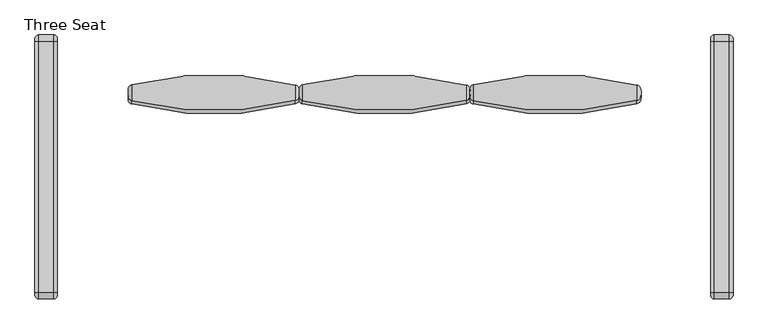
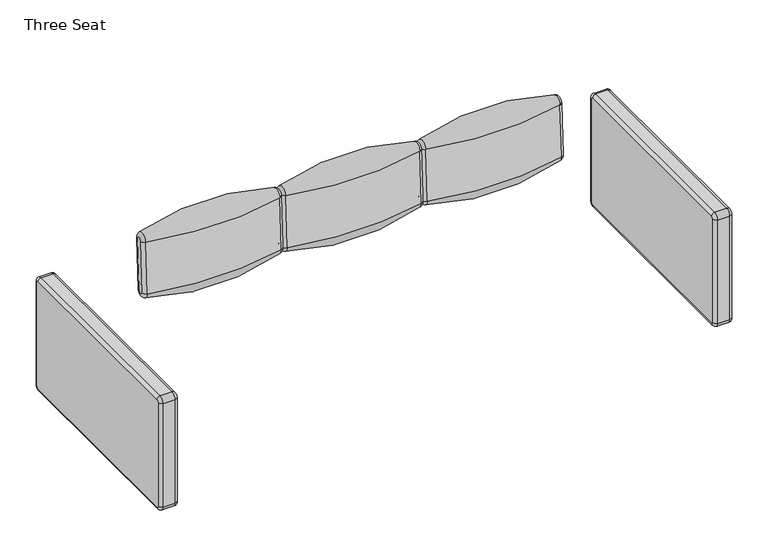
"""IFC4 building model written with IfcOpenShell, lengths in millimetres: furniture geometry, Steelcase Coalesse - Evaneau - Seating - Sofa : Three Seat."""

from ifc_helpers import new_model, si_unit, point, frame, origin, place, context, project, spatial, circle_curve, ellipse_curve, trimmed, source, transform, mapped, element, save
from ifc_brep_helpers import plane_surface, cylinder_surface, revolved_surface, advanced_brep


def three_seat_28475667(model_context):
    return source(origin(), model_context, "Body", "AdvancedBrep", [
        advanced_brep(
        [(-1501.6406826, 868.4730492, 481.0874852), (-1501.6406826, 888.8224164, 480.0210201), (-1489.7351855, 904.2188195, 479.2141288), (-1489.7351855, 853.0766461, 481.8943765), (-1501.6406826, 879.5738856, 692.9040621), (-1501.6406826, 899.9232528, 691.8375969), (-939.8204546, 871.7987042, 480.913195), (-939.8204546, 885.4967614, 480.1953103), (-939.8204546, 896.5975978, 692.0118871), (-939.8204546, 882.8995406, 692.7297719), (-954.0305616, 853.3990279, 481.8774812), (-954.0305616, 903.8964377, 479.2310241), (-1489.7351855, 864.1774825, 693.7109534), (-1489.7351855, 915.3196559, 691.0307057), (-954.0305616, 864.4998643, 693.6940581), (-954.0305616, 914.9972741, 691.047601)],
        [
            (0, 1, circle_curve(frame((-1501.6406826, 878.6477328, 480.5542526), z_axis=(1.0, 0.0, 0.0), x_axis=(0.0, 0.9986295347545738, -0.05233595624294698)), 10.1886468)),
            (1, 2, circle_curve(frame((-1485.705138, 888.8224164, 480.0210201), z_axis=(0.0, -0.05233595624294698, -0.9986295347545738), x_axis=(1.0, 0.0, 0.0)), 15.9355447)),
            (2, 3, circle_curve(frame((-1489.7351855, 878.6477328, 480.5542526), z_axis=(-1.0, 0.0, 0.0), x_axis=(0.0, 0.9986295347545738, -0.05233595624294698)), 25.606179)),
            (3, 0, circle_curve(frame((-1485.705138, 868.4730492, 481.0874852), z_axis=(0.0, -0.05233595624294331, -0.998629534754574), x_axis=(1.0, 0.0, 0.0)), 15.9355447)),
            (0, 4),
            (4, 5, circle_curve(frame((-1501.6406826, 889.7485692, 692.3708295), z_axis=(-1.0, 0.0, 0.0), x_axis=(0.0, 0.9986295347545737, -0.052335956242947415)), 10.1886468)),
            (5, 1),
            (6, 7, circle_curve(frame((-939.8204546, 878.6477328, 480.5542526), z_axis=(1.0, 0.0, 0.0), x_axis=(0.0, 0.9986295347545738, -0.05233595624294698)), 6.8584279)),
            (7, 8),
            (8, 9, circle_curve(frame((-939.8204546, 889.7485692, 692.3708295), z_axis=(1.0, 0.0, 0.0), x_axis=(0.0, 0.9986295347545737, -0.052335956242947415)), 6.8584279)),
            (9, 6),
            (6, 10, circle_curve(frame((-958.8704546, 871.7987042, 480.913195), z_axis=(0.0, -0.05233595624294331, -0.998629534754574), x_axis=(1.0, 0.0, 0.0)), 19.05)),
            (10, 11, circle_curve(frame((-954.0305616, 878.6477328, 480.5542526), z_axis=(1.0, 0.0, 0.0), x_axis=(0.0, 0.9986295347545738, -0.05233595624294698)), 25.2833549)),
            (11, 7, circle_curve(frame((-958.8704546, 885.4967614, 480.1953103), z_axis=(0.0, -0.05233595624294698, -0.9986295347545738), x_axis=(1.0, 0.0, 0.0)), 19.05)),
            (2, 11, circle_curve(frame((-1222.4988615, -116.7314527, 532.7198653), z_axis=(0.0, -0.05233595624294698, -0.9986295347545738), x_axis=(1.0, 0.0, 0.0)), 1056.7012705)),
            (10, 3, circle_curve(frame((-1222.4988615, 1874.0269183, 428.38864), z_axis=(0.0, -0.05233595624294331, -0.998629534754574), x_axis=(1.0, 0.0, 0.0)), 1056.7012705)),
            (4, 12, circle_curve(frame((-1485.705138, 879.5738856, 692.9040621), z_axis=(0.0, 0.05233595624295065, 0.9986295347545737), x_axis=(0.28024218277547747, 0.9586137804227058, -0.050238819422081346)), 15.9355447)),
            (12, 13, circle_curve(frame((-1489.7351855, 889.7485692, 692.3708295), z_axis=(-1.0, 0.0, 0.0), x_axis=(0.0, 0.9986295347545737, -0.052335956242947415)), 25.606179)),
            (13, 5, circle_curve(frame((-1485.705138, 899.9232528, 691.8375969), z_axis=(0.0, 0.05233595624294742, 0.9986295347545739), x_axis=(0.280242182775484, -0.958613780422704, 0.050238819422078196)), 15.9355447)),
            (12, 14, circle_curve(frame((-1222.4988615, 1885.1277547, 640.2052169), z_axis=(0.0, 0.05233595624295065, 0.9986295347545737), x_axis=(0.28024218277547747, 0.9586137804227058, -0.050238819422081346)), 1056.7012705)),
            (14, 15, circle_curve(frame((-954.0305616, 889.7485692, 692.3708295), z_axis=(-1.0, 0.0, 0.0), x_axis=(0.0, 0.9986295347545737, -0.052335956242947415)), 25.2833549)),
            (15, 13, circle_curve(frame((-1222.4988615, -105.6306163, 744.5364422), z_axis=(0.0, 0.05233595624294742, 0.9986295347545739), x_axis=(0.280242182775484, -0.958613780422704, 0.050238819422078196)), 1056.7012705)),
            (14, 9, circle_curve(frame((-958.8704546, 882.8995406, 692.7297719), z_axis=(0.0, 0.05233595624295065, 0.9986295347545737), x_axis=(0.28024218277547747, 0.9586137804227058, -0.050238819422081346)), 19.05)),
            (8, 15, circle_curve(frame((-958.8704546, 896.5975978, 692.0118871), z_axis=(0.0, 0.05233595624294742, 0.9986295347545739), x_axis=(0.280242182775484, -0.958613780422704, 0.050238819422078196)), 19.05)),
            (11, 15),
            (14, 10),
            (12, 3),
            (13, 2),
        ],
        [
            revolved_surface(trimmed(ellipse_curve(frame((-1485.705138, 888.8224164, 480.0210201), z_axis=(0.0, 0.05233595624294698, 0.9986295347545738), x_axis=(1.0, 0.0, 0.0)), 15.9355447, 15.9355447), [point((-1489.7351855, 904.2188195, 479.2141288))], [point((-1501.6406826, 888.8224164, 480.0210201))], True, "CARTESIAN"), (-939.8204546, 878.6477328, 480.5542526), (-1.0, 0.0, 0.0)),
            plane_surface(frame((-1501.6406826, 878.6477328, 480.5542526), z_axis=(-1.0000000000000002, 0.0, 0.0), x_axis=(0.0, 0.9986295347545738, -0.05233595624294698))),
            plane_surface(frame((-939.8204546, 878.6477328, 480.5542526), z_axis=(1.0000000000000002, 0.0, 0.0), x_axis=(0.0, 0.9986295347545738, -0.05233595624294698))),
            revolved_surface(trimmed(ellipse_curve(frame((-958.8704546, 885.4967614, 480.1953103), z_axis=(0.0, 0.05233595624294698, 0.9986295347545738), x_axis=(1.0, 0.0, 0.0)), 19.05, 19.05), [point((-939.8204546, 885.4967614, 480.1953103))], [point((-954.0305616, 903.8964377, 479.2310241))], True, "CARTESIAN"), (-939.8204546, 878.6477328, 480.5542526), (-1.0, 0.0, 0.0)),
            revolved_surface(trimmed(ellipse_curve(frame((-1222.4988615, -116.7314527, 532.7198653), z_axis=(0.0, 0.05233595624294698, 0.9986295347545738), x_axis=(1.0, 0.0, 0.0)), 1056.7012705, 1056.7012705), [point((-954.0305616, 903.8964377, 479.2310241))], [point((-1489.7351855, 904.2188195, 479.2141288))], True, "CARTESIAN"), (-939.8204546, 878.6477328, 480.5542526), (-1.0, 0.0, 0.0)),
            revolved_surface(trimmed(ellipse_curve(frame((-1485.705138, 899.9232528, 691.8375969), z_axis=(0.0, -0.05233595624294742, -0.9986295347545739), x_axis=(0.280242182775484, -0.958613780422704, 0.050238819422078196)), 15.9355447, 15.9355447), [point((-1501.6406826, 899.9232528, 691.8375969))], [point((-1489.7351855, 915.3196559, 691.0307057))], True, "CARTESIAN"), (-1501.6406826, 889.7485692, 692.3708295), (1.0, 0.0, 0.0)),
            revolved_surface(trimmed(ellipse_curve(frame((-1222.4988615, -105.6306163, 744.5364422), z_axis=(0.0, -0.05233595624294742, -0.9986295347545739), x_axis=(0.280242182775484, -0.958613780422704, 0.050238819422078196)), 1056.7012705, 1056.7012705), [point((-1489.7351855, 915.3196559, 691.0307057))], [point((-954.0305616, 914.9972741, 691.047601))], True, "CARTESIAN"), (-1501.6406826, 889.7485692, 692.3708295), (1.0, 0.0, 0.0)),
            revolved_surface(trimmed(ellipse_curve(frame((-958.8704546, 896.5975978, 692.0118871), z_axis=(0.0, -0.05233595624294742, -0.9986295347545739), x_axis=(0.280242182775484, -0.958613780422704, 0.050238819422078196)), 19.05, 19.05), [point((-954.0305616, 914.9972741, 691.047601))], [point((-939.8204546, 896.5975978, 692.0118871))], True, "CARTESIAN"), (-1501.6406826, 889.7485692, 692.3708295), (1.0, 0.0, 0.0)),
            cylinder_surface(frame((-958.8704546, 896.5975978, 692.0118871), z_axis=(0.0, -0.05233595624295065, -0.9986295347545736), x_axis=(1.0, 0.0, 0.0)), 19.05),
            cylinder_surface(frame((-958.8704546, 882.8995406, 692.7297719), z_axis=(0.0, -0.05233595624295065, -0.9986295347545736), x_axis=(1.0, 0.0, 0.0)), 19.05),
            cylinder_surface(frame((-1222.4988615, 1885.1277547, 640.2052169), z_axis=(0.0, -0.05233595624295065, -0.9986295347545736), x_axis=(1.0, 0.0, 0.0)), 1056.7012705),
            cylinder_surface(frame((-1485.705138, 879.5738856, 692.9040621), z_axis=(0.0, -0.05233595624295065, -0.9986295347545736), x_axis=(1.0, 0.0, 0.0)), 15.9355447),
            cylinder_surface(frame((-1485.705138, 899.9232528, 691.8375969), z_axis=(0.0, -0.05233595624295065, -0.9986295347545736), x_axis=(1.0, 0.0, 0.0)), 15.9355447),
            cylinder_surface(frame((-1222.4988615, -105.6306163, 744.5364422), z_axis=(0.0, -0.05233595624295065, -0.9986295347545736), x_axis=(1.0, 0.0, 0.0)), 1056.7012705),
        ],
        [
            (0, [[1, 2, 3, 4]]),
            (1, [[-1, 5, 6, 7]]),
            (2, [[8, 9, 10, 11]]),
            (3, [[-8, 12, 13, 14]]),
            (4, [[-3, 15, -13, 16]]),
            (5, [[-6, 17, 18, 19]]),
            (6, [[-18, 20, 21, 22]]),
            (7, [[-21, 23, -10, 24]]),
            (8, [[25, -24, -9, -14]]),
            (9, [[-11, -23, 26, -12]]),
            (10, [[-26, -20, 27, -16]]),
            (11, [[-27, -17, -5, -4]]),
            (12, [[-7, -19, 28, -2]]),
            (13, [[-25, -15, -28, -22]]),
        ],
    ),
        advanced_brep(
        [(-395.2305616, 903.8964377, 479.2310241), (-395.2305616, 914.9972741, 691.047601), (-381.0204546, 896.5975978, 692.0118871), (-381.0204546, 885.4967614, 480.1953103), (-381.0204546, 882.8995406, 692.7297719), (-381.0204546, 871.7987042, 480.913195), (-395.2305616, 864.4998643, 693.6940581), (-395.2305616, 853.3990279, 481.8774812), (-930.9351855, 864.1774825, 693.7109534), (-930.9351855, 853.0766461, 481.8943765), (-942.8406826, 879.5738856, 692.9040621), (-942.8406826, 868.4730492, 481.0874852), (-942.8406826, 899.9232528, 691.8375969), (-942.8406826, 888.8224164, 480.0210201), (-930.9351855, 915.3196559, 691.0307057), (-930.9351855, 904.2188195, 479.2141288)],
        [
            (0, 1),
            (1, 2, circle_curve(frame((-400.0704546, 896.5975978, 692.0118871), z_axis=(0.0, -0.052335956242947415, -0.9986295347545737), x_axis=(1.0, 0.0, 0.0)), 19.05)),
            (2, 3),
            (3, 0, circle_curve(frame((-400.0704546, 885.4967614, 480.1953103), z_axis=(0.0, 0.052335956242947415, 0.9986295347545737), x_axis=(1.0, 0.0, 0.0)), 19.05)),
            (2, 4, circle_curve(frame((-381.0204546, 889.7485692, 692.3708295), z_axis=(1.0, 0.0, 0.0), x_axis=(0.0, 0.9986295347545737, -0.052335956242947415)), 6.8584279)),
            (4, 5),
            (5, 3, circle_curve(frame((-381.0204546, 878.6477328, 480.5542526), z_axis=(1.0, 0.0, 0.0), x_axis=(0.0, 0.9986295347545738, -0.05233595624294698)), 6.8584279)),
            (4, 6, circle_curve(frame((-400.0704546, 882.8995406, 692.7297719), z_axis=(0.0, -0.05233595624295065, -0.9986295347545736), x_axis=(1.0, 0.0, 0.0)), 19.05)),
            (6, 7),
            (7, 5, circle_curve(frame((-400.0704546, 871.7987042, 480.913195), z_axis=(0.0, 0.05233595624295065, 0.9986295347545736), x_axis=(1.0, 0.0, 0.0)), 19.05)),
            (6, 8, circle_curve(frame((-663.6988615, 1885.1277547, 640.2052169), z_axis=(0.0, -0.05233595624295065, -0.9986295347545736), x_axis=(1.0, 0.0, 0.0)), 1056.7012705)),
            (8, 9),
            (9, 7, circle_curve(frame((-663.6988615, 1874.0269183, 428.38864), z_axis=(0.0, 0.05233595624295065, 0.9986295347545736), x_axis=(1.0, 0.0, 0.0)), 1056.7012705)),
            (8, 10, circle_curve(frame((-926.905138, 879.5738856, 692.9040621), z_axis=(0.0, -0.05233595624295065, -0.9986295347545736), x_axis=(1.0, 0.0, 0.0)), 15.9355447)),
            (10, 11),
            (11, 9, circle_curve(frame((-926.905138, 868.4730492, 481.0874852), z_axis=(0.0, 0.05233595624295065, 0.9986295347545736), x_axis=(1.0, 0.0, 0.0)), 15.9355447)),
            (10, 12, circle_curve(frame((-942.8406826, 889.7485692, 692.3708295), z_axis=(-1.0, 0.0, 0.0), x_axis=(0.0, 0.9986295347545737, -0.052335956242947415)), 10.1886468)),
            (12, 13),
            (13, 11, circle_curve(frame((-942.8406826, 878.6477328, 480.5542526), z_axis=(-1.0, 0.0, 0.0), x_axis=(0.0, 0.9986295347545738, -0.05233595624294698)), 10.1886468)),
            (12, 14, circle_curve(frame((-926.905138, 899.9232528, 691.8375969), z_axis=(0.0, -0.052335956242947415, -0.9986295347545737), x_axis=(1.0, 0.0, 0.0)), 15.9355447)),
            (14, 15),
            (15, 13, circle_curve(frame((-926.905138, 888.8224164, 480.0210201), z_axis=(0.0, 0.052335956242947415, 0.9986295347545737), x_axis=(1.0, 0.0, 0.0)), 15.9355447)),
            (0, 15, circle_curve(frame((-663.6988615, -116.7314527, 532.7198653), z_axis=(0.0, 0.052335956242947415, 0.9986295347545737), x_axis=(1.0, 0.0, 0.0)), 1056.7012705)),
            (14, 1, circle_curve(frame((-663.6988615, -105.6306163, 744.5364422), z_axis=(0.0, -0.052335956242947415, -0.9986295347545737), x_axis=(1.0, 0.0, 0.0)), 1056.7012705)),
            (8, 14, circle_curve(frame((-930.9351855, 889.7485692, 692.3708295), z_axis=(-1.0, 0.0, 0.0), x_axis=(0.0, 0.9986295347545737, -0.052335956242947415)), 25.606179)),
            (6, 1, circle_curve(frame((-395.2305616, 889.7485692, 692.3708295), z_axis=(-1.0, 0.0, 0.0), x_axis=(0.0, 0.9986295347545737, -0.052335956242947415)), 25.2833549)),
            (15, 9, circle_curve(frame((-930.9351855, 878.6477328, 480.5542526), z_axis=(-1.0, 0.0, 0.0), x_axis=(0.0, 0.9986295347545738, -0.05233595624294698)), 25.606179)),
            (7, 0, circle_curve(frame((-395.2305616, 878.6477328, 480.5542526), z_axis=(1.0, 0.0, 0.0), x_axis=(0.0, 0.9986295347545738, -0.05233595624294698)), 25.2833549)),
        ],
        [
            cylinder_surface(frame((-400.0704546, 896.5975978, 692.0118871), z_axis=(0.0, -0.052335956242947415, -0.9986295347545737), x_axis=(1.0, 0.0, 0.0)), 19.05),
            plane_surface(frame((-381.0204546, 885.4967614, 480.1953103), z_axis=(1.0000000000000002, 0.0, 0.0), x_axis=(0.0, 0.052335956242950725, 0.9986295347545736))),
            cylinder_surface(frame((-400.0704546, 882.8995406, 692.7297719), z_axis=(0.0, -0.05233595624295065, -0.9986295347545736), x_axis=(1.0, 0.0, 0.0)), 19.05),
            cylinder_surface(frame((-663.6988615, 1885.1277547, 640.2052169), z_axis=(0.0, -0.05233595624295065, -0.9986295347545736), x_axis=(1.0, 0.0, 0.0)), 1056.7012705),
            cylinder_surface(frame((-926.905138, 879.5738856, 692.9040621), z_axis=(0.0, -0.05233595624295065, -0.9986295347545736), x_axis=(1.0, 0.0, 0.0)), 15.9355447),
            plane_surface(frame((-942.8406826, 868.4730492, 481.0874852), z_axis=(-1.0000000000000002, 0.0, 0.0), x_axis=(0.0, 0.052335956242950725, 0.9986295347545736))),
            cylinder_surface(frame((-926.905138, 899.9232528, 691.8375969), z_axis=(0.0, -0.052335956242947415, -0.9986295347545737), x_axis=(1.0, 0.0, 0.0)), 15.9355447),
            cylinder_surface(frame((-663.6988615, -105.6306163, 744.5364422), z_axis=(0.0, -0.052335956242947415, -0.9986295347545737), x_axis=(1.0, 0.0, 0.0)), 1056.7012705),
            revolved_surface(trimmed(ellipse_curve(frame((-926.905138, 899.9232528, 691.8375969), z_axis=(0.0, -0.052335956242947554, -0.9986295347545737), x_axis=(1.0, 0.0, 0.0)), 15.9355447, 15.9355447), [point((-942.8406826, 899.9232528, 691.8375969))], [point((-930.9351855, 915.3196559, 691.0307057))], True, "CARTESIAN"), (-942.8406826, 889.7485692, 692.3708295), (1.0, 0.0, 0.0)),
            revolved_surface(trimmed(ellipse_curve(frame((-663.6988615, -105.6306163, 744.5364422), z_axis=(0.0, -0.052335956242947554, -0.9986295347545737), x_axis=(1.0, 0.0, 0.0)), 1056.7012705, 1056.7012705), [point((-930.9351855, 915.3196559, 691.0307057))], [point((-395.2305616, 914.9972741, 691.047601))], True, "CARTESIAN"), (-942.8406826, 889.7485692, 692.3708295), (1.0, 0.0, 0.0)),
            revolved_surface(trimmed(ellipse_curve(frame((-400.0704546, 896.5975978, 692.0118871), z_axis=(0.0, -0.052335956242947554, -0.9986295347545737), x_axis=(1.0, 0.0, 0.0)), 19.05, 19.05), [point((-395.2305616, 914.9972741, 691.047601))], [point((-381.0204546, 896.5975978, 692.0118871))], True, "CARTESIAN"), (-942.8406826, 889.7485692, 692.3708295), (1.0, 0.0, 0.0)),
            revolved_surface(trimmed(ellipse_curve(frame((-926.905138, 888.8224164, 480.0210201), z_axis=(0.0, 0.05233595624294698, 0.9986295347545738), x_axis=(1.0, 0.0, 0.0)), 15.9355447, 15.9355447), [point((-930.9351855, 904.2188195, 479.2141288))], [point((-942.8406826, 888.8224164, 480.0210201))], True, "CARTESIAN"), (-381.0204546, 878.6477328, 480.5542526), (-1.0, 0.0, 0.0)),
            revolved_surface(trimmed(ellipse_curve(frame((-400.0704546, 885.4967614, 480.1953103), z_axis=(0.0, 0.05233595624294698, 0.9986295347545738), x_axis=(1.0, 0.0, 0.0)), 19.05, 19.05), [point((-381.0204546, 885.4967614, 480.1953103))], [point((-395.2305616, 903.8964377, 479.2310241))], True, "CARTESIAN"), (-381.0204546, 878.6477328, 480.5542526), (-1.0, 0.0, 0.0)),
            revolved_surface(trimmed(ellipse_curve(frame((-663.6988615, -116.7314527, 532.7198653), z_axis=(0.0, 0.05233595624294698, 0.9986295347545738), x_axis=(1.0, 0.0, 0.0)), 1056.7012705, 1056.7012705), [point((-395.2305616, 903.8964377, 479.2310241))], [point((-930.9351855, 904.2188195, 479.2141288))], True, "CARTESIAN"), (-381.0204546, 878.6477328, 480.5542526), (-1.0, 0.0, 0.0)),
        ],
        [
            (0, [[1, 2, 3, 4]]),
            (1, [[-3, 5, 6, 7]]),
            (2, [[-6, 8, 9, 10]]),
            (3, [[-9, 11, 12, 13]]),
            (4, [[-12, 14, 15, 16]]),
            (5, [[-15, 17, 18, 19]]),
            (6, [[-18, 20, 21, 22]]),
            (7, [[-1, 23, -21, 24]]),
            (8, [[-17, -14, 25, -20]]),
            (9, [[-25, -11, 26, -24]]),
            (10, [[-26, -8, -5, -2]]),
            (11, [[-19, -22, 27, -16]]),
            (12, [[-7, -10, 28, -4]]),
            (13, [[-27, -23, -28, -13]]),
        ],
    ),
        advanced_brep(
        [(-384.0406826, 879.5738856, 692.9040621), (-384.0406826, 899.9232528, 691.8375969), (-384.0406826, 888.8224164, 480.0210201), (-384.0406826, 868.4730492, 481.0874852), (-372.1351855, 864.1774825, 693.7109534), (-372.1351855, 915.3196559, 691.0307057), (163.5694384, 864.4998643, 693.6940581), (163.5694384, 914.9972741, 691.047601), (177.7795454, 882.8995406, 692.7297719), (177.7795454, 896.5975978, 692.0118871), (177.7795454, 871.7987042, 480.913195), (177.7795454, 885.4967614, 480.1953103), (163.5694384, 903.8964377, 479.2310241), (163.5694384, 853.3990279, 481.8774812), (-372.1351855, 853.0766461, 481.8943765), (-372.1351855, 904.2188195, 479.2141288)],
        [
            (0, 1, circle_curve(frame((-384.0406826, 889.7485692, 692.3708295), z_axis=(-1.0, 0.0, 0.0), x_axis=(0.0, 0.9986295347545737, -0.052335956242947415)), 10.1886468)),
            (1, 2),
            (2, 3, circle_curve(frame((-384.0406826, 878.6477328, 480.5542526), z_axis=(-1.0, 0.0, 0.0), x_axis=(0.0, 0.9986295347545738, -0.05233595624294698)), 10.1886468)),
            (3, 0),
            (0, 4, circle_curve(frame((-368.105138, 879.5738856, 692.9040621), z_axis=(0.0, 0.05233595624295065, 0.9986295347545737), x_axis=(0.28024218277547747, 0.9586137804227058, -0.050238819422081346)), 15.9355447)),
            (4, 5, circle_curve(frame((-372.1351855, 889.7485692, 692.3708295), z_axis=(-1.0, 0.0, 0.0), x_axis=(0.0, 0.9986295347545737, -0.052335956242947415)), 25.606179)),
            (5, 1, circle_curve(frame((-368.105138, 899.9232528, 691.8375969), z_axis=(0.0, 0.05233595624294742, 0.9986295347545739), x_axis=(0.280242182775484, -0.958613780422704, 0.050238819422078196)), 15.9355447)),
            (4, 6, circle_curve(frame((-104.8988615, 1885.1277547, 640.2052169), z_axis=(0.0, 0.05233595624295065, 0.9986295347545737), x_axis=(0.28024218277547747, 0.9586137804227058, -0.050238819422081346)), 1056.7012705)),
            (6, 7, circle_curve(frame((163.5694384, 889.7485692, 692.3708295), z_axis=(-1.0, 0.0, 0.0), x_axis=(0.0, 0.9986295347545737, -0.052335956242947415)), 25.2833549)),
            (7, 5, circle_curve(frame((-104.8988615, -105.6306163, 744.5364422), z_axis=(0.0, 0.05233595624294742, 0.9986295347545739), x_axis=(0.280242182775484, -0.958613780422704, 0.050238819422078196)), 1056.7012705)),
            (6, 8, circle_curve(frame((158.7295454, 882.8995406, 692.7297719), z_axis=(0.0, 0.05233595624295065, 0.9986295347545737), x_axis=(0.28024218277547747, 0.9586137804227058, -0.050238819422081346)), 19.05)),
            (8, 9, circle_curve(frame((177.7795454, 889.7485692, 692.3708295), z_axis=(-1.0, 0.0, 0.0), x_axis=(0.0, 0.9986295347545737, -0.052335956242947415)), 6.8584279)),
            (9, 7, circle_curve(frame((158.7295454, 896.5975978, 692.0118871), z_axis=(0.0, 0.05233595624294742, 0.9986295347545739), x_axis=(0.280242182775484, -0.958613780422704, 0.050238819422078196)), 19.05)),
            (8, 10),
            (10, 11, circle_curve(frame((177.7795454, 878.6477328, 480.5542526), z_axis=(1.0, 0.0, 0.0), x_axis=(0.0, 0.9986295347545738, -0.05233595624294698)), 6.8584279)),
            (11, 9),
            (12, 7),
            (11, 12, circle_curve(frame((158.7295454, 885.4967614, 480.1953103), z_axis=(0.0, 0.05233595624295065, 0.9986295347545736), x_axis=(1.0, 0.0, 0.0)), 19.05)),
            (6, 13),
            (13, 10, circle_curve(frame((158.7295454, 871.7987042, 480.913195), z_axis=(0.0, 0.05233595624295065, 0.9986295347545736), x_axis=(1.0, 0.0, 0.0)), 19.05)),
            (4, 14),
            (14, 13, circle_curve(frame((-104.8988615, 1874.0269183, 428.38864), z_axis=(0.0, 0.05233595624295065, 0.9986295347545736), x_axis=(1.0, 0.0, 0.0)), 1056.7012705)),
            (3, 14, circle_curve(frame((-368.105138, 868.4730492, 481.0874852), z_axis=(0.0, 0.05233595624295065, 0.9986295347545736), x_axis=(1.0, 0.0, 0.0)), 15.9355447)),
            (5, 15),
            (15, 2, circle_curve(frame((-368.105138, 888.8224164, 480.0210201), z_axis=(0.0, 0.05233595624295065, 0.9986295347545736), x_axis=(1.0, 0.0, 0.0)), 15.9355447)),
            (12, 15, circle_curve(frame((-104.8988615, -116.7314527, 532.7198653), z_axis=(0.0, 0.05233595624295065, 0.9986295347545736), x_axis=(1.0, 0.0, 0.0)), 1056.7012705)),
            (15, 14, circle_curve(frame((-372.1351855, 878.6477328, 480.5542526), z_axis=(-1.0, 0.0, 0.0), x_axis=(0.0, 0.9986295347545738, -0.05233595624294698)), 25.606179)),
            (13, 12, circle_curve(frame((163.5694384, 878.6477328, 480.5542526), z_axis=(1.0, 0.0, 0.0), x_axis=(0.0, 0.9986295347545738, -0.05233595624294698)), 25.2833549)),
        ],
        [
            plane_surface(frame((-384.0406826, 889.7485692, 692.3708295), z_axis=(-1.0, 0.0, 0.0), x_axis=(0.0, 0.9986295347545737, -0.052335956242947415))),
            revolved_surface(trimmed(ellipse_curve(frame((-368.105138, 899.9232528, 691.8375969), z_axis=(0.0, -0.05233595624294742, -0.9986295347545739), x_axis=(0.280242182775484, -0.958613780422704, 0.050238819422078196)), 15.9355447, 15.9355447), [point((-384.0406826, 899.9232528, 691.8375969))], [point((-372.1351855, 915.3196559, 691.0307057))], True, "CARTESIAN"), (-384.0406826, 889.7485692, 692.3708295), (1.0, 0.0, 0.0)),
            revolved_surface(trimmed(ellipse_curve(frame((-104.8988615, -105.6306163, 744.5364422), z_axis=(0.0, -0.05233595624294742, -0.9986295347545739), x_axis=(0.280242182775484, -0.958613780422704, 0.050238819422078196)), 1056.7012705, 1056.7012705), [point((-372.1351855, 915.3196559, 691.0307057))], [point((163.5694384, 914.9972741, 691.047601))], True, "CARTESIAN"), (-384.0406826, 889.7485692, 692.3708295), (1.0, 0.0, 0.0)),
            revolved_surface(trimmed(ellipse_curve(frame((158.7295454, 896.5975978, 692.0118871), z_axis=(0.0, -0.05233595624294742, -0.9986295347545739), x_axis=(0.280242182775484, -0.958613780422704, 0.050238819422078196)), 19.05, 19.05), [point((163.5694384, 914.9972741, 691.047601))], [point((177.7795454, 896.5975978, 692.0118871))], True, "CARTESIAN"), (-384.0406826, 889.7485692, 692.3708295), (1.0, 0.0, 0.0)),
            plane_surface(frame((177.7795454, 889.7485692, 692.3708295), z_axis=(1.0, 0.0, 0.0), x_axis=(0.0, 0.9986295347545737, -0.052335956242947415))),
            cylinder_surface(frame((158.7295454, 896.5975978, 692.0118871), z_axis=(0.0, -0.05233595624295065, -0.9986295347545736), x_axis=(1.0, 0.0, 0.0)), 19.05),
            cylinder_surface(frame((158.7295454, 882.8995406, 692.7297719), z_axis=(0.0, -0.05233595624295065, -0.9986295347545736), x_axis=(1.0, 0.0, 0.0)), 19.05),
            cylinder_surface(frame((-104.8988615, 1885.1277547, 640.2052169), z_axis=(0.0, -0.05233595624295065, -0.9986295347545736), x_axis=(1.0, 0.0, 0.0)), 1056.7012705),
            cylinder_surface(frame((-368.105138, 879.5738856, 692.9040621), z_axis=(0.0, -0.05233595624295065, -0.9986295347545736), x_axis=(1.0, 0.0, 0.0)), 15.9355447),
            cylinder_surface(frame((-368.105138, 899.9232528, 691.8375969), z_axis=(0.0, -0.05233595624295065, -0.9986295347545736), x_axis=(1.0, 0.0, 0.0)), 15.9355447),
            cylinder_surface(frame((-104.8988615, -105.6306163, 744.5364422), z_axis=(0.0, -0.05233595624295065, -0.9986295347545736), x_axis=(1.0, 0.0, 0.0)), 1056.7012705),
            revolved_surface(trimmed(ellipse_curve(frame((-368.105138, 888.8224164, 480.0210201), z_axis=(0.0, 0.05233595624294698, 0.9986295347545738), x_axis=(1.0, 0.0, 0.0)), 15.9355447, 15.9355447), [point((-372.1351855, 904.2188195, 479.2141288))], [point((-384.0406826, 888.8224164, 480.0210201))], True, "CARTESIAN"), (177.7795454, 878.6477328, 480.5542526), (-1.0, 0.0, 0.0)),
            revolved_surface(trimmed(ellipse_curve(frame((158.7295454, 885.4967614, 480.1953103), z_axis=(0.0, 0.05233595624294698, 0.9986295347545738), x_axis=(1.0, 0.0, 0.0)), 19.05, 19.05), [point((177.7795454, 885.4967614, 480.1953103))], [point((163.5694384, 903.8964377, 479.2310241))], True, "CARTESIAN"), (177.7795454, 878.6477328, 480.5542526), (-1.0, 0.0, 0.0)),
            revolved_surface(trimmed(ellipse_curve(frame((-104.8988615, -116.7314527, 532.7198653), z_axis=(0.0, 0.05233595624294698, 0.9986295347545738), x_axis=(1.0, 0.0, 0.0)), 1056.7012705, 1056.7012705), [point((163.5694384, 903.8964377, 479.2310241))], [point((-372.1351855, 904.2188195, 479.2141288))], True, "CARTESIAN"), (177.7795454, 878.6477328, 480.5542526), (-1.0, 0.0, 0.0)),
        ],
        [
            (0, [[1, 2, 3, 4]]),
            (1, [[-1, 5, 6, 7]]),
            (2, [[-6, 8, 9, 10]]),
            (3, [[-9, 11, 12, 13]]),
            (4, [[-12, 14, 15, 16]]),
            (5, [[17, -13, -16, 18]]),
            (6, [[-14, -11, 19, 20]]),
            (7, [[-19, -8, 21, 22]]),
            (8, [[-21, -5, -4, 23]]),
            (9, [[-2, -7, 24, 25]]),
            (10, [[-17, 26, -24, -10]]),
            (11, [[-3, -25, 27, -23]]),
            (12, [[-15, -20, 28, -18]]),
            (13, [[-27, -26, -28, -22]]),
        ],
    ),
        advanced_brep(
        [(466.382078, 1079.0418203, 513.0799782), (466.382078, 1058.7217985, 533.4), (479.082078, 1058.7217985, 520.7), (479.082078, 1066.3418203, 513.0799782), (418.122078, 1079.0418203, 513.0799782), (418.122078, 1058.7217985, 533.4), (405.422078, 1066.3418203, 513.0799782), (405.422078, 1058.7217985, 520.7), (479.082078, 1066.3418203, 76.6537426), (466.382078, 1079.0418203, 76.6537426), (418.122078, 1079.0418203, 76.6537426), (405.422078, 1066.3418203, 76.6537426), (479.082078, 1058.7217985, 69.0337208), (466.382078, 1058.7217985, 56.3337208), (418.122078, 1058.7217985, 56.3337208), (405.422078, 1058.7217985, 69.0337208), (479.082078, 235.3471838, 69.0337208), (466.382078, 235.3471838, 56.3337208), (418.122078, 235.3471838, 56.3337208), (405.422078, 235.3471838, 69.0337208), (479.082078, 227.727162, 76.6537426), (466.382078, 215.027162, 76.6537426), (418.122078, 215.027162, 76.6537426), (405.422078, 227.727162, 76.6537426), (479.082078, 227.727162, 513.0799782), (466.382078, 215.027162, 513.0799782), (418.122078, 215.027162, 513.0799782), (405.422078, 227.727162, 513.0799782), (479.082078, 235.3471838, 520.7), (466.382078, 235.3471838, 533.4), (418.122078, 235.3471838, 533.4), (405.422078, 235.3471838, 520.7)],
        [
            (0, 1, circle_curve(frame((466.382078, 1058.7217985, 513.0799782), z_axis=(1.0, 0.0, 0.0), x_axis=(0.0, 0.0, 1.0)), 20.3200218)),
            (1, 2, circle_curve(frame((466.382078, 1058.7217985, 520.7), z_axis=(0.0, 1.0, 0.0), x_axis=(0.0, 0.0, -1.0)), 12.7)),
            (2, 3, circle_curve(frame((479.082078, 1058.7217985, 513.0799782), z_axis=(-1.0, 0.0, 0.0), x_axis=(0.0, 0.0, 1.0)), 7.6200218)),
            (3, 0, circle_curve(frame((466.382078, 1066.3418203, 513.0799782), z_axis=(0.0, 0.0, 1.0), x_axis=(0.0, -1.0, 0.0)), 12.7)),
            (0, 4),
            (4, 5, circle_curve(frame((418.122078, 1058.7217985, 513.0799782), z_axis=(1.0, 0.0, 0.0), x_axis=(0.0, 0.0, 1.0)), 20.3200218)),
            (5, 1),
            (4, 6, circle_curve(frame((418.122078, 1066.3418203, 513.0799782), z_axis=(0.0, 0.0, 1.0), x_axis=(0.0, -1.0, 0.0)), 12.7)),
            (6, 7, circle_curve(frame((405.422078, 1058.7217985, 513.0799782), z_axis=(1.0, 0.0, 0.0), x_axis=(0.0, 0.0, 1.0)), 7.6200218)),
            (7, 5, circle_curve(frame((418.122078, 1058.7217985, 520.7), z_axis=(0.0, 1.0, 0.0), x_axis=(0.0, 0.0, -1.0)), 12.7)),
            (3, 8),
            (8, 9, circle_curve(frame((466.382078, 1066.3418203, 76.6537426), z_axis=(0.0, 0.0, 1.0), x_axis=(0.0, -1.0, 0.0)), 12.7)),
            (9, 0),
            (9, 10),
            (10, 4),
            (10, 11, circle_curve(frame((418.122078, 1066.3418203, 76.6537426), z_axis=(0.0, 0.0, 1.0), x_axis=(0.0, -1.0, 0.0)), 12.7)),
            (11, 6),
            (8, 12, circle_curve(frame((479.082078, 1058.7217985, 76.6537426), z_axis=(-1.0, 0.0, 0.0), x_axis=(0.0, 1.0, 0.0)), 7.6200218)),
            (12, 13, circle_curve(frame((466.382078, 1058.7217985, 69.0337208), z_axis=(0.0, 1.0, 0.0), x_axis=(0.0, 0.0, 1.0)), 12.7)),
            (13, 9, circle_curve(frame((466.382078, 1058.7217985, 76.6537426), z_axis=(1.0, 0.0, 0.0), x_axis=(0.0, 1.0, 0.0)), 20.3200218)),
            (13, 14),
            (14, 10, circle_curve(frame((418.122078, 1058.7217985, 76.6537426), z_axis=(1.0, 0.0, 0.0), x_axis=(0.0, 1.0, 0.0)), 20.3200218)),
            (14, 15, circle_curve(frame((418.122078, 1058.7217985, 69.0337208), z_axis=(0.0, 1.0, 0.0), x_axis=(0.0, 0.0, 1.0)), 12.7)),
            (15, 11, circle_curve(frame((405.422078, 1058.7217985, 76.6537426), z_axis=(1.0, 0.0, 0.0), x_axis=(0.0, 1.0, 0.0)), 7.6200218)),
            (12, 16),
            (16, 17, circle_curve(frame((466.382078, 235.3471838, 69.0337208), z_axis=(0.0, 1.0, 0.0), x_axis=(0.0, 0.0, 1.0)), 12.7)),
            (17, 13),
            (17, 18),
            (18, 14),
            (18, 19, circle_curve(frame((418.122078, 235.3471838, 69.0337208), z_axis=(0.0, 1.0, 0.0), x_axis=(0.0, 0.0, 1.0)), 12.7)),
            (19, 15),
            (16, 20, circle_curve(frame((479.082078, 235.3471838, 76.6537426), z_axis=(-1.0, 0.0, 0.0), x_axis=(0.0, 0.0, -1.0)), 7.6200218)),
            (20, 21, circle_curve(frame((466.382078, 227.727162, 76.6537426), z_axis=(0.0, 0.0, -1.0), x_axis=(0.0, 1.0, 0.0)), 12.7)),
            (21, 17, circle_curve(frame((466.382078, 235.3471838, 76.6537426), z_axis=(1.0, 0.0, 0.0), x_axis=(0.0, 0.0, -1.0)), 20.3200218)),
            (21, 22),
            (22, 18, circle_curve(frame((418.122078, 235.3471838, 76.6537426), z_axis=(1.0, 0.0, 0.0), x_axis=(0.0, 0.0, -1.0)), 20.3200218)),
            (22, 23, circle_curve(frame((418.122078, 227.727162, 76.6537426), z_axis=(0.0, 0.0, -1.0), x_axis=(0.0, 1.0, 0.0)), 12.7)),
            (23, 19, circle_curve(frame((405.422078, 235.3471838, 76.6537426), z_axis=(1.0, 0.0, 0.0), x_axis=(0.0, 0.0, -1.0)), 7.6200218)),
            (20, 24),
            (24, 25, circle_curve(frame((466.382078, 227.727162, 513.0799782), z_axis=(0.0, 0.0, -1.0), x_axis=(0.0, 1.0, 0.0)), 12.7)),
            (25, 21),
            (25, 26),
            (26, 22),
            (26, 27, circle_curve(frame((418.122078, 227.727162, 513.0799782), z_axis=(0.0, 0.0, -1.0), x_axis=(0.0, 1.0, 0.0)), 12.7)),
            (27, 23),
            (24, 28, circle_curve(frame((479.082078, 235.3471838, 513.0799782), z_axis=(-1.0, 0.0, 0.0), x_axis=(0.0, -1.0, 0.0)), 7.6200218)),
            (28, 29, circle_curve(frame((466.382078, 235.3471838, 520.7), z_axis=(0.0, -1.0, 0.0), x_axis=(0.0, 0.0, -1.0)), 12.7)),
            (29, 25, circle_curve(frame((466.382078, 235.3471838, 513.0799782), z_axis=(1.0, 0.0, 0.0), x_axis=(0.0, -1.0, 0.0)), 20.3200218)),
            (29, 30),
            (30, 26, circle_curve(frame((418.122078, 235.3471838, 513.0799782), z_axis=(1.0, 0.0, 0.0), x_axis=(0.0, -1.0, 0.0)), 20.3200218)),
            (30, 31, circle_curve(frame((418.122078, 235.3471838, 520.7), z_axis=(0.0, -1.0, 0.0), x_axis=(0.0, 0.0, -1.0)), 12.7)),
            (31, 27, circle_curve(frame((405.422078, 235.3471838, 513.0799782), z_axis=(1.0, 0.0, 0.0), x_axis=(0.0, -1.0, 0.0)), 7.6200218)),
            (2, 28),
            (1, 29),
            (5, 30),
            (7, 31),
        ],
        [
            revolved_surface(trimmed(ellipse_curve(frame((466.382078, 1058.7217985, 520.7), z_axis=(0.0, -1.0, 0.0), x_axis=(0.0, 0.0, -1.0)), 12.7, 12.7), [point((479.082078, 1058.7217985, 520.7))], [point((466.382078, 1058.7217985, 533.4))], True, "CARTESIAN"), (405.422078, 1058.7217985, 513.0799782), (-1.0, 0.0, 0.0)),
            cylinder_surface(frame((405.422078, 1058.7217985, 513.0799782), z_axis=(-1.0, 0.0, 0.0), x_axis=(0.0, 0.0, 1.0)), 20.3200218),
            revolved_surface(trimmed(ellipse_curve(frame((418.122078, 1058.7217985, 520.7), z_axis=(0.0, -1.0, 0.0), x_axis=(0.0, 0.0, -1.0)), 12.7, 12.7), [point((418.122078, 1058.7217985, 533.4))], [point((405.422078, 1058.7217985, 520.7))], True, "CARTESIAN"), (405.422078, 1058.7217985, 513.0799782), (-1.0, 0.0, 0.0)),
            cylinder_surface(frame((466.382078, 1066.3418203, 513.0799782), z_axis=(0.0, 0.0, 1.0), x_axis=(0.0, -1.0, 0.0)), 12.7),
            plane_surface(frame((466.382078, 1079.0418203, 513.0799782), z_axis=(0.0, 1.0, 0.0), x_axis=(0.0, 0.0, -1.0))),
            cylinder_surface(frame((418.122078, 1066.3418203, 513.0799782), z_axis=(0.0, 0.0, 1.0), x_axis=(0.0, -1.0, 0.0)), 12.7),
            revolved_surface(trimmed(ellipse_curve(frame((466.382078, 1066.3418203, 76.6537426), z_axis=(0.0, 0.0, 1.0), x_axis=(0.0, -1.0, 0.0)), 12.7, 12.7), [point((479.082078, 1066.3418203, 76.6537426))], [point((466.382078, 1079.0418203, 76.6537426))], True, "CARTESIAN"), (405.422078, 1058.7217985, 76.6537426), (-1.0, 0.0, 0.0)),
            cylinder_surface(frame((405.422078, 1058.7217985, 76.6537426), z_axis=(-1.0, 0.0, 0.0), x_axis=(0.0, 1.0, 0.0)), 20.3200218),
            revolved_surface(trimmed(ellipse_curve(frame((418.122078, 1066.3418203, 76.6537426), z_axis=(0.0, 0.0, 1.0), x_axis=(0.0, -1.0, 0.0)), 12.7, 12.7), [point((418.122078, 1079.0418203, 76.6537426))], [point((405.422078, 1066.3418203, 76.6537426))], True, "CARTESIAN"), (405.422078, 1058.7217985, 76.6537426), (-1.0, 0.0, 0.0)),
            cylinder_surface(frame((466.382078, 1058.7217985, 69.0337208), z_axis=(0.0, 1.0, 0.0), x_axis=(0.0, 0.0, 1.0)), 12.7),
            plane_surface(frame((466.382078, 1058.7217985, 56.3337208), z_axis=(0.0, 0.0, -1.0), x_axis=(0.0, -1.0, 0.0))),
            cylinder_surface(frame((418.122078, 1058.7217985, 69.0337208), z_axis=(0.0, 1.0, 0.0), x_axis=(0.0, 0.0, 1.0)), 12.7),
            revolved_surface(trimmed(ellipse_curve(frame((466.382078, 235.3471838, 69.0337208), z_axis=(0.0, 1.0, 0.0), x_axis=(0.0, 0.0, 1.0)), 12.7, 12.7), [point((479.082078, 235.3471838, 69.0337208))], [point((466.382078, 235.3471838, 56.3337208))], True, "CARTESIAN"), (405.422078, 235.3471838, 76.6537426), (-1.0, 0.0, 0.0)),
            cylinder_surface(frame((405.422078, 235.3471838, 76.6537426), z_axis=(-1.0, 0.0, 0.0), x_axis=(0.0, 0.0, -1.0)), 20.3200218),
            revolved_surface(trimmed(ellipse_curve(frame((418.122078, 235.3471838, 69.0337208), z_axis=(0.0, 1.0, 0.0), x_axis=(0.0, 0.0, 1.0)), 12.7, 12.7), [point((418.122078, 235.3471838, 56.3337208))], [point((405.422078, 235.3471838, 69.0337208))], True, "CARTESIAN"), (405.422078, 235.3471838, 76.6537426), (-1.0, 0.0, 0.0)),
            cylinder_surface(frame((466.382078, 227.727162, 76.6537426), z_axis=(0.0, 0.0, -1.0), x_axis=(0.0, 1.0, 0.0)), 12.7),
            plane_surface(frame((466.382078, 215.027162, 76.6537426), z_axis=(0.0, -1.0, 0.0), x_axis=(0.0, 0.0, 1.0))),
            cylinder_surface(frame((418.122078, 227.727162, 76.6537426), z_axis=(0.0, 0.0, -1.0), x_axis=(0.0, 1.0, 0.0)), 12.7),
            revolved_surface(trimmed(ellipse_curve(frame((466.382078, 227.727162, 513.0799782), z_axis=(0.0, 0.0, -1.0), x_axis=(0.0, 1.0, 0.0)), 12.7, 12.7), [point((479.082078, 227.727162, 513.0799782))], [point((466.382078, 215.027162, 513.0799782))], True, "CARTESIAN"), (405.422078, 235.3471838, 513.0799782), (-1.0, 0.0, 0.0)),
            cylinder_surface(frame((405.422078, 235.3471838, 513.0799782), z_axis=(-1.0, 0.0, 0.0), x_axis=(0.0, -1.0, 0.0)), 20.3200218),
            revolved_surface(trimmed(ellipse_curve(frame((418.122078, 227.727162, 513.0799782), z_axis=(0.0, 0.0, -1.0), x_axis=(0.0, 1.0, 0.0)), 12.7, 12.7), [point((418.122078, 215.027162, 513.0799782))], [point((405.422078, 227.727162, 513.0799782))], True, "CARTESIAN"), (405.422078, 235.3471838, 513.0799782), (-1.0, 0.0, 0.0)),
            plane_surface(frame((479.082078, 235.3471838, 518.1599782), z_axis=(1.0, 0.0, 0.0), x_axis=(0.0, 1.0, 0.0))),
            cylinder_surface(frame((466.382078, 235.3471838, 520.7), z_axis=(0.0, -1.0, 0.0), x_axis=(0.0, 0.0, -1.0)), 12.7),
            plane_surface(frame((466.382078, 235.3471838, 533.4), z_axis=(0.0, 0.0, 1.0), x_axis=(0.0, 1.0, 0.0))),
            cylinder_surface(frame((418.122078, 235.3471838, 520.7), z_axis=(0.0, -1.0, 0.0), x_axis=(0.0, 0.0, -1.0)), 12.7),
            plane_surface(frame((405.422078, 235.3471838, 520.7), z_axis=(-1.0, 0.0, 0.0), x_axis=(0.0, 1.0, 0.0))),
        ],
        [
            (0, [[1, 2, 3, 4]]),
            (1, [[-1, 5, 6, 7]]),
            (2, [[-6, 8, 9, 10]]),
            (3, [[-4, 11, 12, 13]]),
            (4, [[-5, -13, 14, 15]]),
            (5, [[-8, -15, 16, 17]]),
            (6, [[-12, 18, 19, 20]]),
            (7, [[-14, -20, 21, 22]]),
            (8, [[-16, -22, 23, 24]]),
            (9, [[-19, 25, 26, 27]]),
            (10, [[-21, -27, 28, 29]]),
            (11, [[-23, -29, 30, 31]]),
            (12, [[-26, 32, 33, 34]]),
            (13, [[-28, -34, 35, 36]]),
            (14, [[-30, -36, 37, 38]]),
            (15, [[-33, 39, 40, 41]]),
            (16, [[-35, -41, 42, 43]]),
            (17, [[-37, -43, 44, 45]]),
            (18, [[-40, 46, 47, 48]]),
            (19, [[-42, -48, 49, 50]]),
            (20, [[-44, -50, 51, 52]]),
            (21, [[-3, 53, -46, -39, -32, -25, -18, -11]]),
            (22, [[-2, 54, -47, -53]]),
            (23, [[-7, 55, -49, -54]]),
            (24, [[-10, 56, -51, -55]]),
            (25, [[-9, -17, -24, -31, -38, -45, -52, -56]]),
        ],
    ),
        advanced_brep(
        [(-1806.917922, 1058.7217985, 520.7), (-1806.917922, 1066.3418203, 513.0799782), (-1806.917922, 1066.3418203, 76.6537426), (-1806.917922, 1058.7217985, 69.0337208), (-1806.917922, 235.3471838, 69.0337208), (-1806.917922, 227.727162, 76.6537426), (-1806.917922, 227.727162, 513.0799782), (-1806.917922, 235.3471838, 520.7), (-1733.257922, 1066.3418203, 513.0799782), (-1733.257922, 1058.7217985, 520.7), (-1733.257922, 235.3471838, 520.7), (-1733.257922, 227.727162, 513.0799782), (-1733.257922, 227.727162, 76.6537426), (-1733.257922, 235.3471838, 69.0337208), (-1733.257922, 1058.7217985, 69.0337208), (-1733.257922, 1066.3418203, 76.6537426), (-1745.957922, 1079.0418203, 513.0799782), (-1745.957922, 1058.7217985, 533.4), (-1794.217922, 1079.0418203, 513.0799782), (-1794.217922, 1058.7217985, 533.4), (-1745.957922, 1079.0418203, 76.6537426), (-1794.217922, 1079.0418203, 76.6537426), (-1745.957922, 1058.7217985, 56.3337208), (-1794.217922, 1058.7217985, 56.3337208), (-1745.957922, 235.3471838, 56.3337208), (-1794.217922, 235.3471838, 56.3337208), (-1745.957922, 215.027162, 76.6537426), (-1794.217922, 215.027162, 76.6537426), (-1745.957922, 215.027162, 513.0799782), (-1794.217922, 215.027162, 513.0799782), (-1745.957922, 235.3471838, 533.4), (-1794.217922, 235.3471838, 533.4)],
        [
            (0, 1, circle_curve(frame((-1806.917922, 1058.7217985, 513.0799782), z_axis=(-1.0, 0.0, 0.0), x_axis=(0.0, 0.0, 1.0)), 7.6200218)),
            (1, 2),
            (2, 3, circle_curve(frame((-1806.917922, 1058.7217985, 76.6537426), z_axis=(-1.0, 0.0, 0.0), x_axis=(0.0, 1.0, 0.0)), 7.6200218)),
            (3, 4),
            (4, 5, circle_curve(frame((-1806.917922, 235.3471838, 76.6537426), z_axis=(-1.0, 0.0, 0.0), x_axis=(0.0, 0.0, -1.0)), 7.6200218)),
            (5, 6),
            (6, 7, circle_curve(frame((-1806.917922, 235.3471838, 513.0799782), z_axis=(-1.0, 0.0, 0.0), x_axis=(0.0, -1.0, 0.0)), 7.6200218)),
            (7, 0),
            (8, 9, circle_curve(frame((-1733.257922, 1058.7217985, 513.0799782), z_axis=(1.0, 0.0, 0.0), x_axis=(0.0, 0.0, 1.0)), 7.6200218)),
            (9, 10),
            (10, 11, circle_curve(frame((-1733.257922, 235.3471838, 513.0799782), z_axis=(1.0, 0.0, 0.0), x_axis=(0.0, -1.0, 0.0)), 7.6200218)),
            (11, 12),
            (12, 13, circle_curve(frame((-1733.257922, 235.3471838, 76.6537426), z_axis=(1.0, 0.0, 0.0), x_axis=(0.0, 0.0, -1.0)), 7.6200218)),
            (13, 14),
            (14, 15, circle_curve(frame((-1733.257922, 1058.7217985, 76.6537426), z_axis=(1.0, 0.0, 0.0), x_axis=(0.0, 1.0, 0.0)), 7.6200218)),
            (15, 8),
            (16, 17, circle_curve(frame((-1745.957922, 1058.7217985, 513.0799782), z_axis=(1.0, 0.0, 0.0), x_axis=(0.0, 0.0, 1.0)), 20.3200218)),
            (17, 9, circle_curve(frame((-1745.957922, 1058.7217985, 520.7), z_axis=(0.0, 1.0, 0.0), x_axis=(0.0, 0.0, -1.0)), 12.7)),
            (8, 16, circle_curve(frame((-1745.957922, 1066.3418203, 513.0799782), z_axis=(0.0, 0.0, 1.0), x_axis=(0.0, -1.0, 0.0)), 12.7)),
            (16, 18),
            (18, 19, circle_curve(frame((-1794.217922, 1058.7217985, 513.0799782), z_axis=(1.0, 0.0, 0.0), x_axis=(0.0, 0.0, 1.0)), 20.3200218)),
            (19, 17),
            (18, 1, circle_curve(frame((-1794.217922, 1066.3418203, 513.0799782), z_axis=(0.0, 0.0, 1.0), x_axis=(0.0, -1.0, 0.0)), 12.7)),
            (0, 19, circle_curve(frame((-1794.217922, 1058.7217985, 520.7), z_axis=(0.0, 1.0, 0.0), x_axis=(0.0, 0.0, -1.0)), 12.7)),
            (15, 20, circle_curve(frame((-1745.957922, 1066.3418203, 76.6537426), z_axis=(0.0, 0.0, 1.0), x_axis=(0.0, -1.0, 0.0)), 12.7)),
            (20, 16),
            (20, 21),
            (21, 18),
            (21, 2, circle_curve(frame((-1794.217922, 1066.3418203, 76.6537426), z_axis=(0.0, 0.0, 1.0), x_axis=(0.0, -1.0, 0.0)), 12.7)),
            (14, 22, circle_curve(frame((-1745.957922, 1058.7217985, 69.0337208), z_axis=(0.0, 1.0, 0.0), x_axis=(0.0, 0.0, 1.0)), 12.7)),
            (22, 20, circle_curve(frame((-1745.957922, 1058.7217985, 76.6537426), z_axis=(1.0, 0.0, 0.0), x_axis=(0.0, 1.0, 0.0)), 20.3200218)),
            (22, 23),
            (23, 21, circle_curve(frame((-1794.217922, 1058.7217985, 76.6537426), z_axis=(1.0, 0.0, 0.0), x_axis=(0.0, 1.0, 0.0)), 20.3200218)),
            (23, 3, circle_curve(frame((-1794.217922, 1058.7217985, 69.0337208), z_axis=(0.0, 1.0, 0.0), x_axis=(0.0, 0.0, 1.0)), 12.7)),
            (13, 24, circle_curve(frame((-1745.957922, 235.3471838, 69.0337208), z_axis=(0.0, 1.0, 0.0), x_axis=(0.0, 0.0, 1.0)), 12.7)),
            (24, 22),
            (24, 25),
            (25, 23),
            (25, 4, circle_curve(frame((-1794.217922, 235.3471838, 69.0337208), z_axis=(0.0, 1.0, 0.0), x_axis=(0.0, 0.0, 1.0)), 12.7)),
            (12, 26, circle_curve(frame((-1745.957922, 227.727162, 76.6537426), z_axis=(0.0, 0.0, -1.0), x_axis=(0.0, 1.0, 0.0)), 12.7)),
            (26, 24, circle_curve(frame((-1745.957922, 235.3471838, 76.6537426), z_axis=(1.0, 0.0, 0.0), x_axis=(0.0, 0.0, -1.0)), 20.3200218)),
            (26, 27),
            (27, 25, circle_curve(frame((-1794.217922, 235.3471838, 76.6537426), z_axis=(1.0, 0.0, 0.0), x_axis=(0.0, 0.0, -1.0)), 20.3200218)),
            (27, 5, circle_curve(frame((-1794.217922, 227.727162, 76.6537426), z_axis=(0.0, 0.0, -1.0), x_axis=(0.0, 1.0, 0.0)), 12.7)),
            (11, 28, circle_curve(frame((-1745.957922, 227.727162, 513.0799782), z_axis=(0.0, 0.0, -1.0), x_axis=(0.0, 1.0, 0.0)), 12.7)),
            (28, 26),
            (28, 29),
            (29, 27),
            (29, 6, circle_curve(frame((-1794.217922, 227.727162, 513.0799782), z_axis=(0.0, 0.0, -1.0), x_axis=(0.0, 1.0, 0.0)), 12.7)),
            (10, 30, circle_curve(frame((-1745.957922, 235.3471838, 520.7), z_axis=(0.0, -1.0, 0.0), x_axis=(0.0, 0.0, -1.0)), 12.7)),
            (30, 28, circle_curve(frame((-1745.957922, 235.3471838, 513.0799782), z_axis=(1.0, 0.0, 0.0), x_axis=(0.0, -1.0, 0.0)), 20.3200218)),
            (30, 31),
            (31, 29, circle_curve(frame((-1794.217922, 235.3471838, 513.0799782), z_axis=(1.0, 0.0, 0.0), x_axis=(0.0, -1.0, 0.0)), 20.3200218)),
            (31, 7, circle_curve(frame((-1794.217922, 235.3471838, 520.7), z_axis=(0.0, -1.0, 0.0), x_axis=(0.0, 0.0, -1.0)), 12.7)),
            (17, 30),
            (19, 31),
        ],
        [
            plane_surface(frame((-1806.917922, 1058.7217985, 518.1599782), z_axis=(-1.0, 0.0, 0.0), x_axis=(0.0, 1.0, 0.0))),
            plane_surface(frame((-1733.257922, 1058.7217985, 518.1599782), z_axis=(1.0, 0.0, 0.0), x_axis=(0.0, -1.0, 0.0))),
            revolved_surface(trimmed(ellipse_curve(frame((-1745.957922, 1058.7217985, 520.7), z_axis=(0.0, -1.0, 0.0), x_axis=(0.0, 0.0, -1.0)), 12.7, 12.7), [point((-1733.257922, 1058.7217985, 520.7))], [point((-1745.957922, 1058.7217985, 533.4))], True, "CARTESIAN"), (-1733.257922, 1058.7217985, 513.0799782), (-1.0, 0.0, 0.0)),
            cylinder_surface(frame((-1733.257922, 1058.7217985, 513.0799782), z_axis=(-1.0, 0.0, 0.0), x_axis=(0.0, 0.0, 1.0)), 20.3200218),
            revolved_surface(trimmed(ellipse_curve(frame((-1794.217922, 1058.7217985, 520.7), z_axis=(0.0, -1.0, 0.0), x_axis=(0.0, 0.0, -1.0)), 12.7, 12.7), [point((-1794.217922, 1058.7217985, 533.4))], [point((-1806.917922, 1058.7217985, 520.7))], True, "CARTESIAN"), (-1733.257922, 1058.7217985, 513.0799782), (-1.0, 0.0, 0.0)),
            cylinder_surface(frame((-1745.957922, 1066.3418203, 513.0799782), z_axis=(0.0, 0.0, 1.0), x_axis=(0.0, -1.0, 0.0)), 12.7),
            plane_surface(frame((-1745.957922, 1079.0418203, 513.0799782), z_axis=(0.0, 1.0, 0.0), x_axis=(0.0, 0.0, -1.0))),
            cylinder_surface(frame((-1794.217922, 1066.3418203, 513.0799782), z_axis=(0.0, 0.0, 1.0), x_axis=(0.0, -1.0, 0.0)), 12.7),
            revolved_surface(trimmed(ellipse_curve(frame((-1745.957922, 1066.3418203, 76.6537426), z_axis=(0.0, 0.0, 1.0), x_axis=(0.0, -1.0, 0.0)), 12.7, 12.7), [point((-1733.257922, 1066.3418203, 76.6537426))], [point((-1745.957922, 1079.0418203, 76.6537426))], True, "CARTESIAN"), (-1733.257922, 1058.7217985, 76.6537426), (-1.0, 0.0, 0.0)),
            cylinder_surface(frame((-1733.257922, 1058.7217985, 76.6537426), z_axis=(-1.0, 0.0, 0.0), x_axis=(0.0, 1.0, 0.0)), 20.3200218),
            revolved_surface(trimmed(ellipse_curve(frame((-1794.217922, 1066.3418203, 76.6537426), z_axis=(0.0, 0.0, 1.0), x_axis=(0.0, -1.0, 0.0)), 12.7, 12.7), [point((-1794.217922, 1079.0418203, 76.6537426))], [point((-1806.917922, 1066.3418203, 76.6537426))], True, "CARTESIAN"), (-1733.257922, 1058.7217985, 76.6537426), (-1.0, 0.0, 0.0)),
            cylinder_surface(frame((-1745.957922, 1058.7217985, 69.0337208), z_axis=(0.0, 1.0, 0.0), x_axis=(0.0, 0.0, 1.0)), 12.7),
            plane_surface(frame((-1745.957922, 1058.7217985, 56.3337208), z_axis=(0.0, 0.0, -1.0), x_axis=(0.0, -1.0, 0.0))),
            cylinder_surface(frame((-1794.217922, 1058.7217985, 69.0337208), z_axis=(0.0, 1.0, 0.0), x_axis=(0.0, 0.0, 1.0)), 12.7),
            revolved_surface(trimmed(ellipse_curve(frame((-1745.957922, 235.3471838, 69.0337208), z_axis=(0.0, 1.0, 0.0), x_axis=(0.0, 0.0, 1.0)), 12.7, 12.7), [point((-1733.257922, 235.3471838, 69.0337208))], [point((-1745.957922, 235.3471838, 56.3337208))], True, "CARTESIAN"), (-1733.257922, 235.3471838, 76.6537426), (-1.0, 0.0, 0.0)),
            cylinder_surface(frame((-1733.257922, 235.3471838, 76.6537426), z_axis=(-1.0, 0.0, 0.0), x_axis=(0.0, 0.0, -1.0)), 20.3200218),
            revolved_surface(trimmed(ellipse_curve(frame((-1794.217922, 235.3471838, 69.0337208), z_axis=(0.0, 1.0, 0.0), x_axis=(0.0, 0.0, 1.0)), 12.7, 12.7), [point((-1794.217922, 235.3471838, 56.3337208))], [point((-1806.917922, 235.3471838, 69.0337208))], True, "CARTESIAN"), (-1733.257922, 235.3471838, 76.6537426), (-1.0, 0.0, 0.0)),
            cylinder_surface(frame((-1745.957922, 227.727162, 76.6537426), z_axis=(0.0, 0.0, -1.0), x_axis=(0.0, 1.0, 0.0)), 12.7),
            plane_surface(frame((-1745.957922, 215.027162, 76.6537426), z_axis=(0.0, -1.0, 0.0), x_axis=(0.0, 0.0, 1.0))),
            cylinder_surface(frame((-1794.217922, 227.727162, 76.6537426), z_axis=(0.0, 0.0, -1.0), x_axis=(0.0, 1.0, 0.0)), 12.7),
            revolved_surface(trimmed(ellipse_curve(frame((-1745.957922, 227.727162, 513.0799782), z_axis=(0.0, 0.0, -1.0), x_axis=(0.0, 1.0, 0.0)), 12.7, 12.7), [point((-1733.257922, 227.727162, 513.0799782))], [point((-1745.957922, 215.027162, 513.0799782))], True, "CARTESIAN"), (-1733.257922, 235.3471838, 513.0799782), (-1.0, 0.0, 0.0)),
            cylinder_surface(frame((-1733.257922, 235.3471838, 513.0799782), z_axis=(-1.0, 0.0, 0.0), x_axis=(0.0, -1.0, 0.0)), 20.3200218),
            revolved_surface(trimmed(ellipse_curve(frame((-1794.217922, 227.727162, 513.0799782), z_axis=(0.0, 0.0, -1.0), x_axis=(0.0, 1.0, 0.0)), 12.7, 12.7), [point((-1794.217922, 215.027162, 513.0799782))], [point((-1806.917922, 227.727162, 513.0799782))], True, "CARTESIAN"), (-1733.257922, 235.3471838, 513.0799782), (-1.0, 0.0, 0.0)),
            cylinder_surface(frame((-1745.957922, 235.3471838, 520.7), z_axis=(0.0, -1.0, 0.0), x_axis=(0.0, 0.0, -1.0)), 12.7),
            plane_surface(frame((-1745.957922, 235.3471838, 533.4), z_axis=(0.0, 0.0, 1.0), x_axis=(0.0, 1.0, 0.0))),
            cylinder_surface(frame((-1794.217922, 235.3471838, 520.7), z_axis=(0.0, -1.0, 0.0), x_axis=(0.0, 0.0, -1.0)), 12.7),
        ],
        [
            (0, [[1, 2, 3, 4, 5, 6, 7, 8]]),
            (1, [[9, 10, 11, 12, 13, 14, 15, 16]]),
            (2, [[17, 18, -9, 19]]),
            (3, [[-17, 20, 21, 22]]),
            (4, [[-21, 23, -1, 24]]),
            (5, [[-19, -16, 25, 26]]),
            (6, [[-20, -26, 27, 28]]),
            (7, [[-23, -28, 29, -2]]),
            (8, [[-25, -15, 30, 31]]),
            (9, [[-27, -31, 32, 33]]),
            (10, [[-29, -33, 34, -3]]),
            (11, [[-30, -14, 35, 36]]),
            (12, [[-32, -36, 37, 38]]),
            (13, [[-34, -38, 39, -4]]),
            (14, [[-35, -13, 40, 41]]),
            (15, [[-37, -41, 42, 43]]),
            (16, [[-39, -43, 44, -5]]),
            (17, [[-40, -12, 45, 46]]),
            (18, [[-42, -46, 47, 48]]),
            (19, [[-44, -48, 49, -6]]),
            (20, [[-45, -11, 50, 51]]),
            (21, [[-47, -51, 52, 53]]),
            (22, [[-49, -53, 54, -7]]),
            (23, [[-18, 55, -50, -10]]),
            (24, [[-22, 56, -52, -55]]),
            (25, [[-24, -8, -54, -56]]),
        ],
    ),
    ])


if __name__ == "__main__":
    model = new_model("IFC4")
    model_context = context("Model", 3, world=origin())
    ifc_project = project(units=[si_unit("LENGTHUNIT", "METRE", prefix="MILLI")], contexts=[model_context])
    site = spatial("IfcSite", under=ifc_project)
    building = spatial("IfcBuilding", under=site)
    placement = place(None, origin())
    three_seat_shape = three_seat_28475667(model_context)
    element("IfcFurniture", 1, ObjectType="Steelcase Coalesse - Evaneau - Seating - Sofa : Three Seat", at=placement, inside=building, context=model_context, shape_type="MappedRepresentation", body=[
        mapped(three_seat_shape, transform((0.0, 0.0, 0.0), x_axis=(1.0, 0.0, 0.0), y_axis=(0.0, 1.0, 0.0), z_axis=(0.0, 0.0, 1.0))),
    ])
    save(model, "model.ifc")
